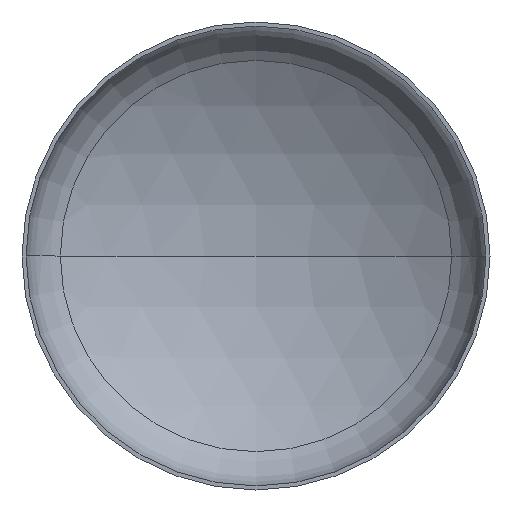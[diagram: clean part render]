
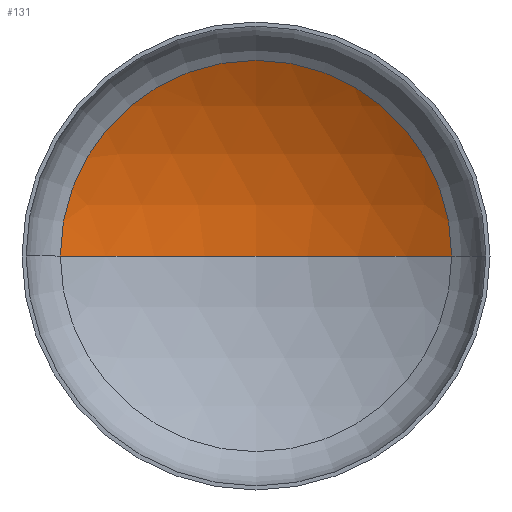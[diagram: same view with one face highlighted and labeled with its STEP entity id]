
A CAD part, front view. The second image highlights one B-rep face of the part: STEP entity #131.
In plain terms, the highlighted spherical face has radius 1200 mm.
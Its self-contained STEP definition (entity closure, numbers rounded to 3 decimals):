
#7 = EDGE_LOOP ( 'NONE', ( #24, #114, #13 ) ) ;
#13 = ORIENTED_EDGE ( 'NONE', *, *, #186, .T. ) ;
#15 = DIRECTION ( 'NONE',  ( 1., 0., 0. ) ) ;
#24 = ORIENTED_EDGE ( 'NONE', *, *, #189, .F. ) ;
#39 = VERTEX_POINT ( 'NONE', #154 ) ;
#46 = DIRECTION ( 'NONE',  ( 0., 0., -1. ) ) ;
#86 = VERTEX_POINT ( 'NONE', #101 ) ;
#96 = CARTESIAN_POINT ( 'NONE',  ( 0., -786.953, 0. ) ) ;
#101 = CARTESIAN_POINT ( 'NONE',  ( 0., 413.047, 0. ) ) ;
#113 = AXIS2_PLACEMENT_3D ( 'NONE', #373, #216, #15 ) ;
#114 = ORIENTED_EDGE ( 'NONE', *, *, #187, .T. ) ;
#117 = AXIS2_PLACEMENT_3D ( 'NONE', #272, #46, #294 ) ;
#119 = AXIS2_PLACEMENT_3D ( 'NONE', #167, #333, #199 ) ;
#121 = FACE_OUTER_BOUND ( 'NONE', #7, .T. ) ;
#131 = ADVANCED_FACE ( 'NONE', ( #121 ), #316, .F. ) ;
#154 = CARTESIAN_POINT ( 'NONE',  ( -627.216, 236.082, 0. ) ) ;
#155 = AXIS2_PLACEMENT_3D ( 'NONE', #96, #283, #265 ) ;
#167 = CARTESIAN_POINT ( 'NONE',  ( 0., 236.082, 0. ) ) ;
#186 = EDGE_CURVE ( 'NONE', #323, #39, #410, .T. ) ;
#187 = EDGE_CURVE ( 'NONE', #86, #323, #346, .T. ) ;
#189 = EDGE_CURVE ( 'NONE', #86, #39, #233, .T. ) ;
#199 = DIRECTION ( 'NONE',  ( 1., 0., 0. ) ) ;
#216 = DIRECTION ( 'NONE',  ( 0., 0., 1. ) ) ;
#233 = CIRCLE ( 'NONE', #113, 1200. ) ;
#265 = DIRECTION ( 'NONE',  ( -1., 0., 0. ) ) ;
#272 = CARTESIAN_POINT ( 'NONE',  ( 0., -786.953, 0. ) ) ;
#275 = CARTESIAN_POINT ( 'NONE',  ( 627.216, 236.082, 0. ) ) ;
#283 = DIRECTION ( 'NONE',  ( 0., 0., -1. ) ) ;
#294 = DIRECTION ( 'NONE',  ( -1., 0., 0. ) ) ;
#316 = SPHERICAL_SURFACE ( 'NONE', #155, 1200. ) ;
#323 = VERTEX_POINT ( 'NONE', #275 ) ;
#333 = DIRECTION ( 'NONE',  ( 0., -1., 0. ) ) ;
#346 = CIRCLE ( 'NONE', #117, 1200. ) ;
#373 = CARTESIAN_POINT ( 'NONE',  ( 0., -786.953, 0. ) ) ;
#410 = CIRCLE ( 'NONE', #119, 627.216 ) ;
